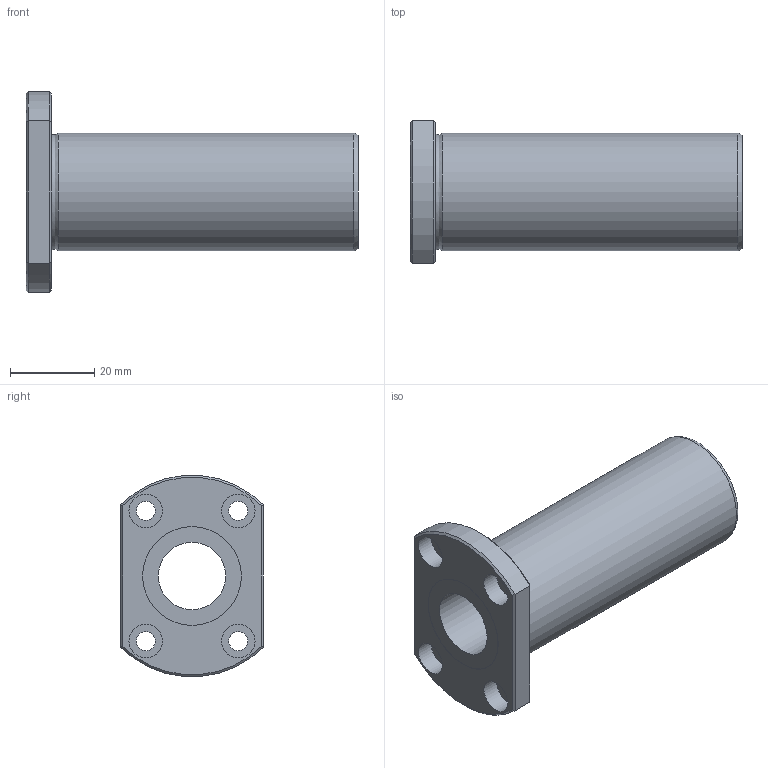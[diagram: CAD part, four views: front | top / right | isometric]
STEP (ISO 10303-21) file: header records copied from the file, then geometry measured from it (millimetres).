
FILE_DESCRIPTION((''),'2;1');
FILE_NAME('D:\製品 (図面)\カタログ用3D\メンテナンスフリー関連\STEP形式\LFDT-MF\LFDT16MF.stp','2010-06-01T15:50:34',('Tsuchiya'),(''),'Autodesk Inventor 10','Autodesk Inventor 10','');
FILE_SCHEMA(('AUTOMOTIVE_DESIGN { 1 0 10303 214 1 1 1 1 }'));
Length unit declared in the file: millimetre
Products named in the file (1): LFDT16MF
Bounding box: 79 x 34 x 47.82 mm (x, y, z)
Volume: 36843.6 mm3; surface area: 14130.8 mm2
Topology: 1 solids, 1 shells, 35 faces, 68 edges, 42 vertices
Faces by surface type: plane 15, cylinder 14, cone 4, torus 1, bspline 1
Full cylindrical faces by diameter (mm): 4.5 x4, 8 x4, 16 x1, 23.5 x2, 28 x1
Entity records: 935 total; most frequent: CARTESIAN_POINT 218, DIRECTION 150, ORIENTED_EDGE 108, AXIS2_PLACEMENT_3D 69, EDGE_LOOP 66, EDGE_CURVE 54, VERTEX_POINT 42, FACE_OUTER_BOUND 35
